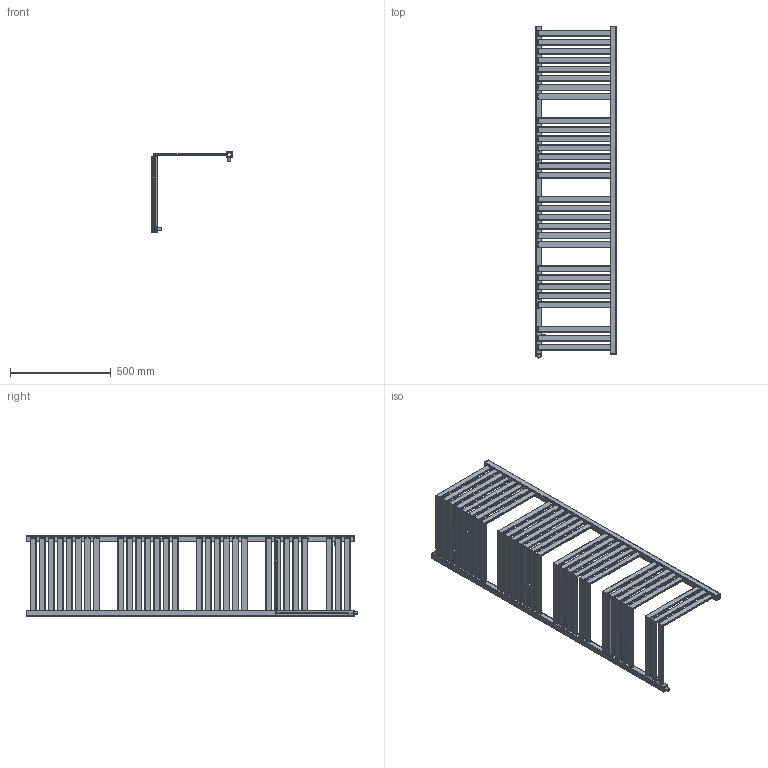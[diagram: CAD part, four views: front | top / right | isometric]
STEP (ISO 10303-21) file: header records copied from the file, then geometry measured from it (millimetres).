
FILE_DESCRIPTION( ( 'Unknown' ), '1' );
FILE_NAME( 'D:/Alplast sp. j/Witryna zespoBu - Projekty/Archiwum/Grzejniki Archiwum/Projekty/DESIGN PROGRAM/CORNER ALFA I BETA/CORNER ALFA 7.stp', 'Unknown', ( 'Unknown' ), ( 'Unknown' ), 'PSStep 10.1', 'Unknown', ' ' );
FILE_SCHEMA( ( 'AUTOMOTIVE_DESIGN { 1 0 10303 214 1 1 1 1 }' ) );
Length unit declared in the file: millimetre
Products named in the file (6): kana³ po giêciu; Assem1; kana³y 30x10 czêœæ do giêcia; AK7-N; zaslepka kwadrat otwor; mocowanie
Bounding box: 400 x 1648 x 400 mm (x, y, z)
Volume: 2850964.1 mm3; surface area: 4248691.7 mm2
Topology: 74 solids, 74 shells, 2232 faces, 6283 edges, 4148 vertices
Faces by surface type: plane 1241, cylinder 981, torus 10
Full cylindrical faces by diameter (mm): 14 x5, 16 x5, 18.631 x5, 23 x5
Entity records: 12796 total; most frequent: DIRECTION 1841, CARTESIAN_POINT 1803, ORIENTED_EDGE 1726, EDGE_CURVE 863, AXIS2_PLACEMENT_3D 638, VERTEX_POINT 578, LINE 565, VECTOR 565
